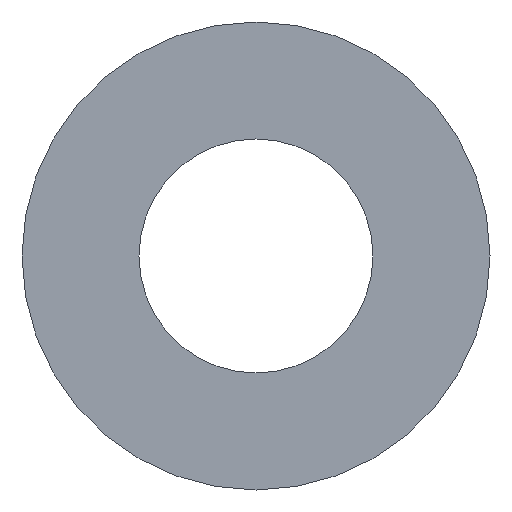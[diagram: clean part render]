
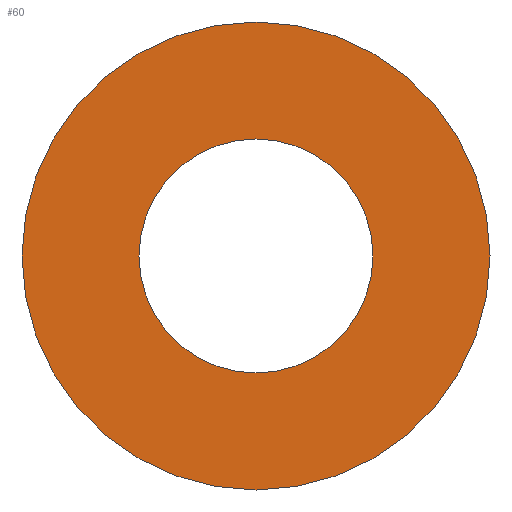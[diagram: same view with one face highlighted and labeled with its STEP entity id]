
A CAD part, left-side view. The second image highlights one B-rep face of the part: STEP entity #60.
In plain terms, the highlighted planar face has unit normal (-1, 0, 0).
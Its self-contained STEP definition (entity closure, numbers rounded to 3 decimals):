
#22=ORIENTED_EDGE('',*,*,#30,.F.);
#23=ORIENTED_EDGE('',*,*,#31,.T.);
#30=EDGE_CURVE('',#34,#34,#38,.T.);
#31=EDGE_CURVE('',#35,#35,#39,.T.);
#34=VERTEX_POINT('',#106);
#35=VERTEX_POINT('',#108);
#38=CIRCLE('',#78,5.);
#39=CIRCLE('',#79,2.5);
#42=EDGE_LOOP('',(#22));
#43=EDGE_LOOP('',(#23));
#50=FACE_BOUND('',#42,.T.);
#51=FACE_BOUND('',#43,.T.);
#58=PLANE('',#77);
#60=ADVANCED_FACE('',(#50,#51),#58,.F.);
#77=AXIS2_PLACEMENT_3D('',#104,#87,#88);
#78=AXIS2_PLACEMENT_3D('',#105,#89,#90);
#79=AXIS2_PLACEMENT_3D('',#107,#91,#92);
#87=DIRECTION('',(1.,0.,0.));
#88=DIRECTION('',(0.,0.,-1.));
#89=DIRECTION('',(1.,0.,0.));
#90=DIRECTION('',(0.,0.,-1.));
#91=DIRECTION('',(1.,0.,0.));
#92=DIRECTION('',(0.,0.,-1.));
#104=CARTESIAN_POINT('',(0.,0.,0.));
#105=CARTESIAN_POINT('',(0.,0.,0.));
#106=CARTESIAN_POINT('',(0.,0.,-5.));
#107=CARTESIAN_POINT('',(0.,0.,0.));
#108=CARTESIAN_POINT('',(0.,0.,-2.5));
